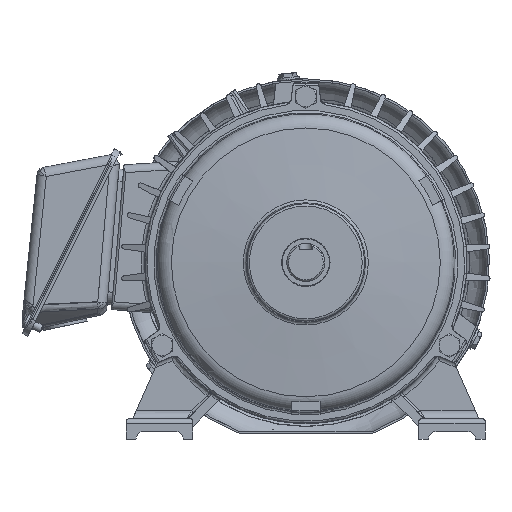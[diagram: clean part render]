
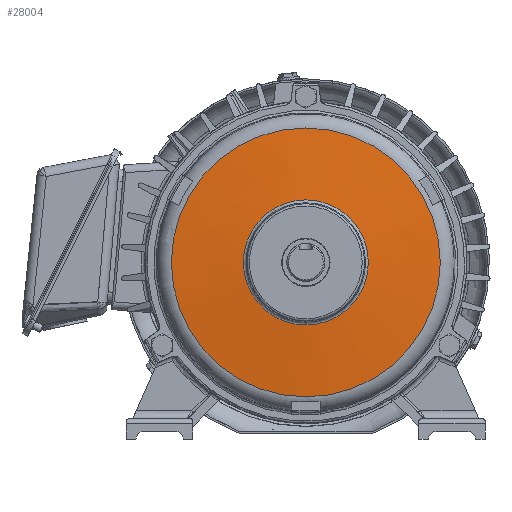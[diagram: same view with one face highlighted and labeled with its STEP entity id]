
A CAD part, front view. The second image highlights one B-rep face of the part: STEP entity #28004.
In plain terms, the highlighted conical face has half-angle 84.882 degrees and reference radius 92.5 mm.
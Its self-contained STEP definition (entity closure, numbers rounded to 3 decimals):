
#568=CONICAL_SURFACE('',#29973,92.5,1.481);
#6705=ORIENTED_EDGE('',*,*,#13141,.T.);
#6706=ORIENTED_EDGE('',*,*,#13142,.T.);
#13141=EDGE_CURVE('',#16512,#16512,#18541,.T.);
#13142=EDGE_CURVE('',#16513,#16513,#18542,.T.);
#16512=VERTEX_POINT('',#48127);
#16513=VERTEX_POINT('',#48129);
#18541=CIRCLE('',#29974,85.099);
#18542=CIRCLE('',#29975,39.578);
#20108=EDGE_LOOP('',(#6705));
#20109=EDGE_LOOP('',(#6706));
#21996=FACE_BOUND('',#20108,.T.);
#21997=FACE_BOUND('',#20109,.T.);
#28004=ADVANCED_FACE('',(#21996,#21997),#568,.T.);
#29973=AXIS2_PLACEMENT_3D('',#48125,#34002,#34003);
#29974=AXIS2_PLACEMENT_3D('',#48126,#34004,#34005);
#29975=AXIS2_PLACEMENT_3D('',#48128,#34006,#34007);
#34002=DIRECTION('',(0.,1.,0.));
#34003=DIRECTION('',(-1.,0.,0.));
#34004=DIRECTION('',(0.,-1.,0.));
#34005=DIRECTION('',(1.,0.,0.));
#34006=DIRECTION('',(0.,1.,0.));
#34007=DIRECTION('',(-1.,0.,0.));
#48125=CARTESIAN_POINT('',(0.,11.881,0.));
#48126=CARTESIAN_POINT('',(0.,11.218,0.));
#48127=CARTESIAN_POINT('',(85.099,11.218,0.));
#48128=CARTESIAN_POINT('',(0.,7.141,0.));
#48129=CARTESIAN_POINT('',(-39.578,7.141,0.));
